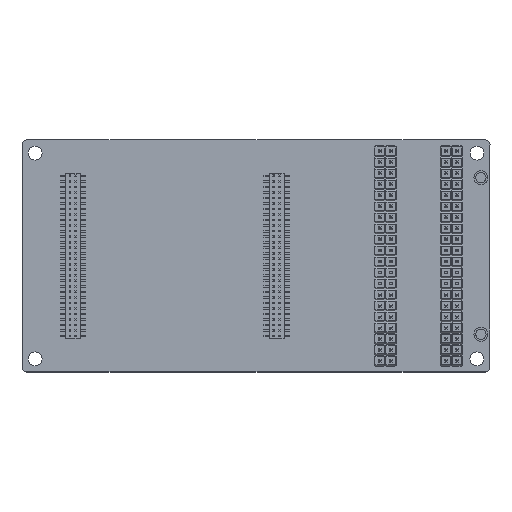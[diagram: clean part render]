
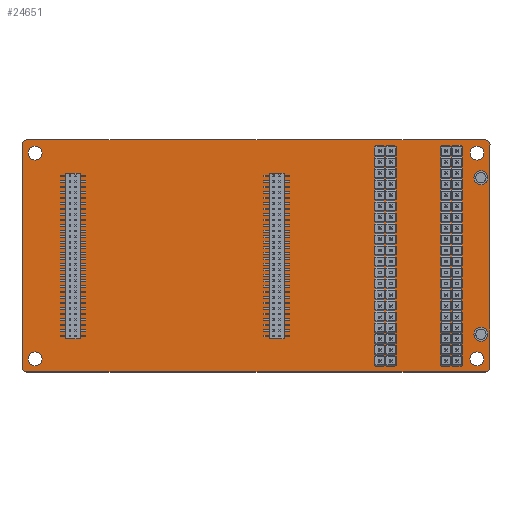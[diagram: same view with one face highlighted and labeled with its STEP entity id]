
A CAD part, top view. The second image highlights one B-rep face of the part: STEP entity #24651.
In plain terms, the highlighted planar face has unit normal (0, 0, 1).
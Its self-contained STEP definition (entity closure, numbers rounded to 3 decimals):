
#468=FACE_BOUND('',#3139,.T.);
#469=FACE_BOUND('',#3140,.T.);
#470=FACE_BOUND('',#3141,.T.);
#471=FACE_BOUND('',#3142,.T.);
#616=PLANE('',#26039);
#1840=FACE_OUTER_BOUND('',#3138,.T.);
#3138=EDGE_LOOP('',(#17515,#17516,#17517,#17518,#17519,#17520,#17521,#17522,
#17523,#17524,#17525,#17526,#17527,#17528,#17529,#17530,#17531,#17532,#17533));
#3139=EDGE_LOOP('',(#17534));
#3140=EDGE_LOOP('',(#17535));
#3141=EDGE_LOOP('',(#17536));
#3142=EDGE_LOOP('',(#17537));
#4545=LINE('',#34137,#7962);
#4549=LINE('',#34149,#7966);
#4552=LINE('',#34155,#7969);
#4555=LINE('',#34161,#7972);
#4558=LINE('',#34167,#7975);
#4561=LINE('',#34173,#7978);
#4564=LINE('',#34179,#7981);
#4568=LINE('',#34191,#7985);
#4571=LINE('',#34197,#7988);
#4575=LINE('',#34209,#7992);
#4578=LINE('',#34215,#7995);
#4581=LINE('',#34221,#7998);
#4584=LINE('',#34227,#8001);
#4587=LINE('',#34233,#8004);
#4590=LINE('',#34239,#8007);
#7962=VECTOR('',#27598,1.);
#7966=VECTOR('',#27610,1.);
#7969=VECTOR('',#27615,1.);
#7972=VECTOR('',#27620,1.);
#7975=VECTOR('',#27625,1.);
#7978=VECTOR('',#27630,1.);
#7981=VECTOR('',#27635,1.);
#7985=VECTOR('',#27647,1.);
#7988=VECTOR('',#27652,1.);
#7992=VECTOR('',#27664,1.);
#7995=VECTOR('',#27669,1.);
#7998=VECTOR('',#27674,1.);
#8001=VECTOR('',#27679,1.);
#8004=VECTOR('',#27684,1.);
#8007=VECTOR('',#27689,1.);
#11374=CIRCLE('',#26000,1.6);
#11376=CIRCLE('',#26003,1.6);
#11378=CIRCLE('',#26006,1.6);
#11380=CIRCLE('',#26009,1.6);
#11382=CIRCLE('',#26013,1.);
#11384=CIRCLE('',#26022,1.);
#11386=CIRCLE('',#26027,1.);
#11388=CIRCLE('',#26036,1.);
#11524=VERTEX_POINT('',#34109);
#11526=VERTEX_POINT('',#34115);
#11528=VERTEX_POINT('',#34121);
#11530=VERTEX_POINT('',#34127);
#11533=VERTEX_POINT('',#34134);
#11534=VERTEX_POINT('',#34136);
#11536=VERTEX_POINT('',#34142);
#11538=VERTEX_POINT('',#34148);
#11540=VERTEX_POINT('',#34154);
#11542=VERTEX_POINT('',#34160);
#11544=VERTEX_POINT('',#34166);
#11546=VERTEX_POINT('',#34172);
#11548=VERTEX_POINT('',#34178);
#11550=VERTEX_POINT('',#34184);
#11552=VERTEX_POINT('',#34190);
#11554=VERTEX_POINT('',#34196);
#11556=VERTEX_POINT('',#34202);
#11558=VERTEX_POINT('',#34208);
#11560=VERTEX_POINT('',#34214);
#11562=VERTEX_POINT('',#34220);
#11564=VERTEX_POINT('',#34226);
#11566=VERTEX_POINT('',#34232);
#11568=VERTEX_POINT('',#34238);
#13825=EDGE_CURVE('',#11524,#11524,#11374,.T.);
#13828=EDGE_CURVE('',#11526,#11526,#11376,.T.);
#13831=EDGE_CURVE('',#11528,#11528,#11378,.T.);
#13834=EDGE_CURVE('',#11530,#11530,#11380,.T.);
#13838=EDGE_CURVE('',#11533,#11534,#4545,.T.);
#13841=EDGE_CURVE('',#11534,#11536,#11382,.T.);
#13844=EDGE_CURVE('',#11536,#11538,#4549,.T.);
#13847=EDGE_CURVE('',#11538,#11540,#4552,.T.);
#13850=EDGE_CURVE('',#11540,#11542,#4555,.T.);
#13853=EDGE_CURVE('',#11542,#11544,#4558,.T.);
#13856=EDGE_CURVE('',#11544,#11546,#4561,.T.);
#13859=EDGE_CURVE('',#11546,#11548,#4564,.T.);
#13862=EDGE_CURVE('',#11548,#11550,#11384,.T.);
#13865=EDGE_CURVE('',#11550,#11552,#4568,.T.);
#13868=EDGE_CURVE('',#11552,#11554,#4571,.T.);
#13871=EDGE_CURVE('',#11554,#11556,#11386,.T.);
#13874=EDGE_CURVE('',#11556,#11558,#4575,.T.);
#13877=EDGE_CURVE('',#11558,#11560,#4578,.T.);
#13880=EDGE_CURVE('',#11560,#11562,#4581,.T.);
#13883=EDGE_CURVE('',#11562,#11564,#4584,.T.);
#13886=EDGE_CURVE('',#11564,#11566,#4587,.T.);
#13889=EDGE_CURVE('',#11566,#11568,#4590,.T.);
#13892=EDGE_CURVE('',#11568,#11533,#11388,.T.);
#17515=ORIENTED_EDGE('',*,*,#13838,.F.);
#17516=ORIENTED_EDGE('',*,*,#13892,.F.);
#17517=ORIENTED_EDGE('',*,*,#13889,.F.);
#17518=ORIENTED_EDGE('',*,*,#13886,.F.);
#17519=ORIENTED_EDGE('',*,*,#13883,.F.);
#17520=ORIENTED_EDGE('',*,*,#13880,.F.);
#17521=ORIENTED_EDGE('',*,*,#13877,.F.);
#17522=ORIENTED_EDGE('',*,*,#13874,.F.);
#17523=ORIENTED_EDGE('',*,*,#13871,.F.);
#17524=ORIENTED_EDGE('',*,*,#13868,.F.);
#17525=ORIENTED_EDGE('',*,*,#13865,.F.);
#17526=ORIENTED_EDGE('',*,*,#13862,.F.);
#17527=ORIENTED_EDGE('',*,*,#13859,.F.);
#17528=ORIENTED_EDGE('',*,*,#13856,.F.);
#17529=ORIENTED_EDGE('',*,*,#13853,.F.);
#17530=ORIENTED_EDGE('',*,*,#13850,.F.);
#17531=ORIENTED_EDGE('',*,*,#13847,.F.);
#17532=ORIENTED_EDGE('',*,*,#13844,.F.);
#17533=ORIENTED_EDGE('',*,*,#13841,.F.);
#17534=ORIENTED_EDGE('',*,*,#13825,.T.);
#17535=ORIENTED_EDGE('',*,*,#13828,.T.);
#17536=ORIENTED_EDGE('',*,*,#13831,.T.);
#17537=ORIENTED_EDGE('',*,*,#13834,.T.);
#24651=ADVANCED_FACE('',(#1840,#468,#469,#470,#471),#616,.F.);
#26000=AXIS2_PLACEMENT_3D('',#34110,#27569,#27570);
#26003=AXIS2_PLACEMENT_3D('',#34116,#27576,#27577);
#26006=AXIS2_PLACEMENT_3D('',#34122,#27583,#27584);
#26009=AXIS2_PLACEMENT_3D('',#34128,#27590,#27591);
#26013=AXIS2_PLACEMENT_3D('',#34143,#27603,#27604);
#26022=AXIS2_PLACEMENT_3D('',#34185,#27640,#27641);
#26027=AXIS2_PLACEMENT_3D('',#34203,#27657,#27658);
#26036=AXIS2_PLACEMENT_3D('',#34244,#27694,#27695);
#26039=AXIS2_PLACEMENT_3D('',#34247,#27700,#27701);
#27569=DIRECTION('center_axis',(0.,0.,-1.));
#27570=DIRECTION('ref_axis',(-1.,0.,0.));
#27576=DIRECTION('center_axis',(0.,0.,-1.));
#27577=DIRECTION('ref_axis',(-1.,0.,0.));
#27583=DIRECTION('center_axis',(0.,0.,-1.));
#27584=DIRECTION('ref_axis',(-1.,0.,0.));
#27590=DIRECTION('center_axis',(0.,0.,-1.));
#27591=DIRECTION('ref_axis',(-1.,0.,0.));
#27598=DIRECTION('',(0.,1.,0.));
#27603=DIRECTION('center_axis',(0.,0.,-1.));
#27604=DIRECTION('ref_axis',(-1.,0.,0.));
#27610=DIRECTION('',(1.,0.,0.));
#27615=DIRECTION('',(1.,0.,0.));
#27620=DIRECTION('',(1.,0.,0.));
#27625=DIRECTION('',(1.,0.,0.));
#27630=DIRECTION('',(1.,0.,0.));
#27635=DIRECTION('',(1.,0.,0.));
#27640=DIRECTION('center_axis',(0.,0.,-1.));
#27641=DIRECTION('ref_axis',(0.,1.,0.));
#27647=DIRECTION('',(0.,-1.,0.));
#27652=DIRECTION('',(0.,-1.,0.));
#27657=DIRECTION('center_axis',(0.,0.,-1.));
#27658=DIRECTION('ref_axis',(1.,0.,0.));
#27664=DIRECTION('',(-1.,0.,0.));
#27669=DIRECTION('',(-1.,0.,0.));
#27674=DIRECTION('',(-1.,0.,0.));
#27679=DIRECTION('',(-1.,0.,0.));
#27684=DIRECTION('',(-1.,0.,0.));
#27689=DIRECTION('',(-1.,0.,0.));
#27694=DIRECTION('center_axis',(0.,0.,-1.));
#27695=DIRECTION('ref_axis',(0.,-1.,0.));
#27700=DIRECTION('center_axis',(0.,0.,-1.));
#27701=DIRECTION('ref_axis',(-1.,0.,0.));
#34109=CARTESIAN_POINT('',(4.6,3.,1.62));
#34110=CARTESIAN_POINT('Origin',(3.,3.,1.62));
#34115=CARTESIAN_POINT('',(106.2,3.,1.62));
#34116=CARTESIAN_POINT('Origin',(104.6,3.,1.62));
#34121=CARTESIAN_POINT('',(4.6,50.34,1.62));
#34122=CARTESIAN_POINT('Origin',(3.,50.34,1.62));
#34127=CARTESIAN_POINT('',(106.214,50.34,1.62));
#34128=CARTESIAN_POINT('Origin',(104.614,50.34,1.62));
#34134=CARTESIAN_POINT('',(0.,1.,1.62));
#34136=CARTESIAN_POINT('',(0.,52.34,1.62));
#34137=CARTESIAN_POINT('',(0.,1.,1.62));
#34142=CARTESIAN_POINT('',(1.,53.34,1.62));
#34143=CARTESIAN_POINT('Origin',(1.,52.34,1.62));
#34148=CARTESIAN_POINT('',(1.,53.34,1.62));
#34149=CARTESIAN_POINT('',(1.,53.34,1.62));
#34154=CARTESIAN_POINT('',(20.,53.34,1.62));
#34155=CARTESIAN_POINT('',(1.,53.34,1.62));
#34160=CARTESIAN_POINT('',(25.,53.34,1.62));
#34161=CARTESIAN_POINT('',(1.,53.34,1.62));
#34166=CARTESIAN_POINT('',(82.6,53.34,1.62));
#34167=CARTESIAN_POINT('',(25.,53.34,1.62));
#34172=CARTESIAN_POINT('',(87.6,53.34,1.62));
#34173=CARTESIAN_POINT('',(1.,53.34,1.62));
#34178=CARTESIAN_POINT('',(106.6,53.34,1.62));
#34179=CARTESIAN_POINT('',(1.,53.34,1.62));
#34184=CARTESIAN_POINT('',(107.6,52.34,1.62));
#34185=CARTESIAN_POINT('Origin',(106.6,52.34,1.62));
#34190=CARTESIAN_POINT('',(107.6,11.759,1.62));
#34191=CARTESIAN_POINT('',(107.6,52.34,1.62));
#34196=CARTESIAN_POINT('',(107.6,1.,1.62));
#34197=CARTESIAN_POINT('',(107.6,52.34,1.62));
#34202=CARTESIAN_POINT('',(106.6,0.,1.62));
#34203=CARTESIAN_POINT('Origin',(106.6,1.,1.62));
#34208=CARTESIAN_POINT('',(87.6,0.,1.62));
#34209=CARTESIAN_POINT('',(106.6,0.,1.62));
#34214=CARTESIAN_POINT('',(82.6,0.,1.62));
#34215=CARTESIAN_POINT('',(106.6,0.,1.62));
#34220=CARTESIAN_POINT('',(25.,0.,1.62));
#34221=CARTESIAN_POINT('',(82.6,0.,1.62));
#34226=CARTESIAN_POINT('',(20.,0.,1.62));
#34227=CARTESIAN_POINT('',(106.6,0.,1.62));
#34232=CARTESIAN_POINT('',(1.,0.,1.62));
#34233=CARTESIAN_POINT('',(20.,0.,1.62));
#34238=CARTESIAN_POINT('',(1.,0.,1.62));
#34239=CARTESIAN_POINT('',(106.6,0.,1.62));
#34244=CARTESIAN_POINT('Origin',(1.,1.,1.62));
#34247=CARTESIAN_POINT('Origin',(53.8,26.67,1.62));
